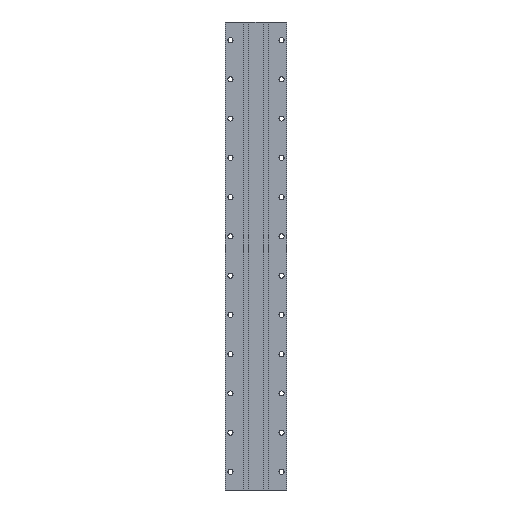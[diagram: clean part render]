
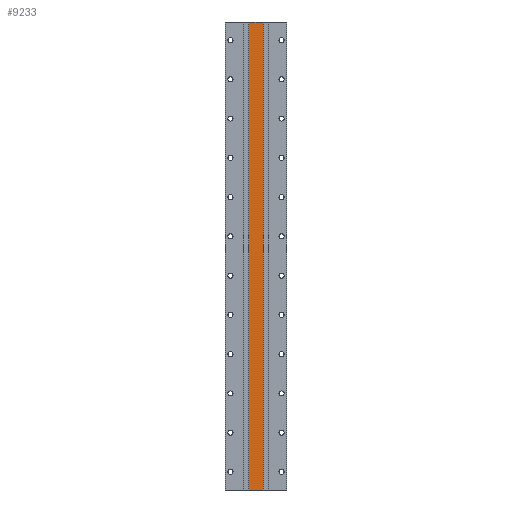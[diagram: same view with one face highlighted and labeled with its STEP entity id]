
A CAD part, front view. The second image highlights one B-rep face of the part: STEP entity #9233.
In plain terms, the highlighted planar face has unit normal (0, -1, 0).
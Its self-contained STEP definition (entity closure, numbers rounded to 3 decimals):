
#1129 = DIRECTION ( 'NONE',  ( 0., 0., 1. ) ) ;
#1130 = VECTOR ( 'NONE', #1129, 1000. ) ;
#1131 = CARTESIAN_POINT ( 'NONE',  ( -9.25, 0., -298. ) ) ;
#1132 = LINE ( 'NONE', #1131, #1130 ) ;
#1206 = DIRECTION ( 'NONE',  ( 0., 0., 1. ) ) ;
#1207 = VECTOR ( 'NONE', #1206, 1000. ) ;
#1208 = CARTESIAN_POINT ( 'NONE',  ( 9.25, 0., -298. ) ) ;
#1209 = LINE ( 'NONE', #1208, #1207 ) ;
#1210 = CARTESIAN_POINT ( 'NONE',  ( 9.25, 0., 298. ) ) ;
#1227 = CARTESIAN_POINT ( 'NONE',  ( 9.25, 0., -298. ) ) ;
#1253 = DIRECTION ( 'NONE',  ( 0., 0., -1. ) ) ;
#1254 = DIRECTION ( 'NONE',  ( 0., -1., 0. ) ) ;
#1255 = CARTESIAN_POINT ( 'NONE',  ( -9.25, 0., -298. ) ) ;
#1256 = AXIS2_PLACEMENT_3D ( 'NONE', #1255, #1254, #1253 ) ;
#1257 = FACE_OUTER_BOUND ( 'NONE', #9334, .T. ) ;
#1262 = PLANE ( 'NONE',  #1256 ) ;
#1269 = CARTESIAN_POINT ( 'NONE',  ( -9.25, 0., 298. ) ) ;
#1311 = DIRECTION ( 'NONE',  ( 1., 0., 0. ) ) ;
#1312 = VECTOR ( 'NONE', #1311, 1000. ) ;
#1313 = CARTESIAN_POINT ( 'NONE',  ( -9.25, 0., 298. ) ) ;
#1314 = LINE ( 'NONE', #1313, #1312 ) ;
#1331 = CARTESIAN_POINT ( 'NONE',  ( -9.25, 0., -298. ) ) ;
#1530 = DIRECTION ( 'NONE',  ( 1., 0., 0. ) ) ;
#1531 = VECTOR ( 'NONE', #1530, 1000. ) ;
#1532 = CARTESIAN_POINT ( 'NONE',  ( -9.25, 0., -298. ) ) ;
#1533 = LINE ( 'NONE', #1532, #1531 ) ;
#9142 = EDGE_CURVE ( 'NONE', #9258, #9226, #1132, .T. ) ;
#9211 = VERTEX_POINT ( 'NONE', #1227 ) ;
#9223 = VERTEX_POINT ( 'NONE', #1210 ) ;
#9225 = EDGE_CURVE ( 'NONE', #9211, #9223, #1209, .T. ) ;
#9226 = VERTEX_POINT ( 'NONE', #1269 ) ;
#9227 = ORIENTED_EDGE ( 'NONE', *, *, #9142, .F. ) ;
#9233 = ADVANCED_FACE ( 'NONE', ( #1257 ), #1262, .T. ) ;
#9258 = VERTEX_POINT ( 'NONE', #1331 ) ;
#9259 = ORIENTED_EDGE ( 'NONE', *, *, #9360, .T. ) ;
#9271 = EDGE_CURVE ( 'NONE', #9226, #9223, #1314, .T. ) ;
#9334 = EDGE_LOOP ( 'NONE', ( #9335, #9227, #9259, #9339 ) ) ;
#9335 = ORIENTED_EDGE ( 'NONE', *, *, #9271, .F. ) ;
#9339 = ORIENTED_EDGE ( 'NONE', *, *, #9225, .T. ) ;
#9360 = EDGE_CURVE ( 'NONE', #9258, #9211, #1533, .T. ) ;
